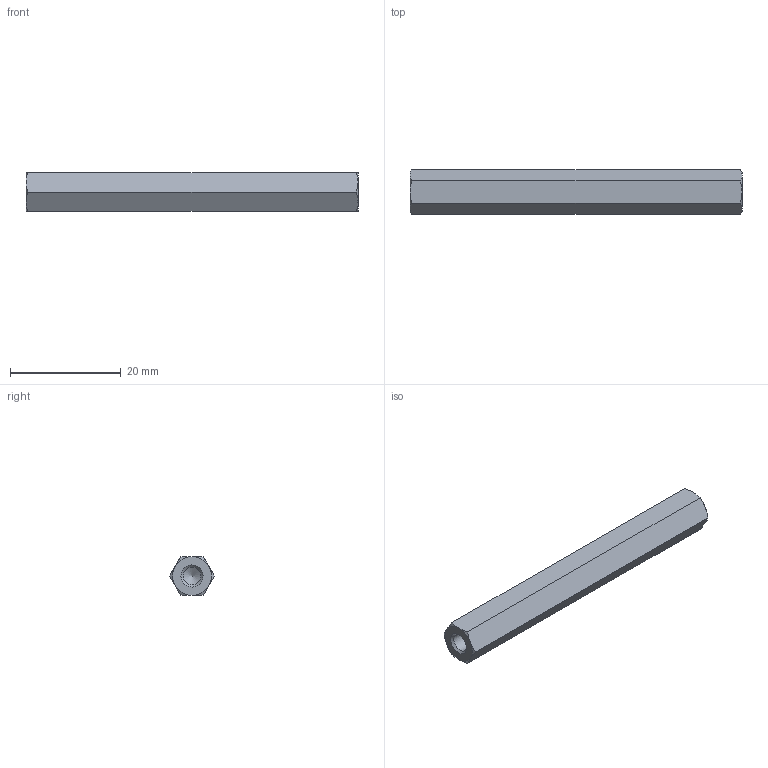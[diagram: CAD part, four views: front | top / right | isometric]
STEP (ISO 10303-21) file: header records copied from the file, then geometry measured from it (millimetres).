
FILE_DESCRIPTION( ( 'STEP AP203' ), '1' );
FILE_NAME( 'C:/Temp/Ganter_Step_05_03_2020/data/3_2/gn6220/gn6220_ni/Stainless Steel-Spacer GN 6220-NI-M4-60-A.stp', '2020-03-13T05:42:58', ( 'License CC BY-ND 4.0' ), ( 'CADENAS' ), ' ', 'PARTsolutions', ' ' );
FILE_SCHEMA( ( 'CONFIG_CONTROL_DESIGN' ) );
Length unit declared in the file: millimetre
Products named in the file (1): _Stainless Steel-Spacer GN 6220-NI-M4-60-A
Bounding box: 60 x 8.08 x 7 mm (x, y, z)
Volume: 2310.6 mm3; surface area: 1815.5 mm2
Topology: 1 solids, 1 shells, 26 faces, 57 edges, 33 vertices
Faces by surface type: cone 16, plane 8, cylinder 2
Full cylindrical faces by diameter (mm): 3.242 x2
Entity records: 750 total; most frequent: CARTESIAN_POINT 211, DIRECTION 96, ORIENTED_EDGE 96, EDGE_CURVE 48, AXIS2_PLACEMENT_3D 45, EDGE_LOOP 32, VERTEX_POINT 32, FACE_OUTER_BOUND 28
